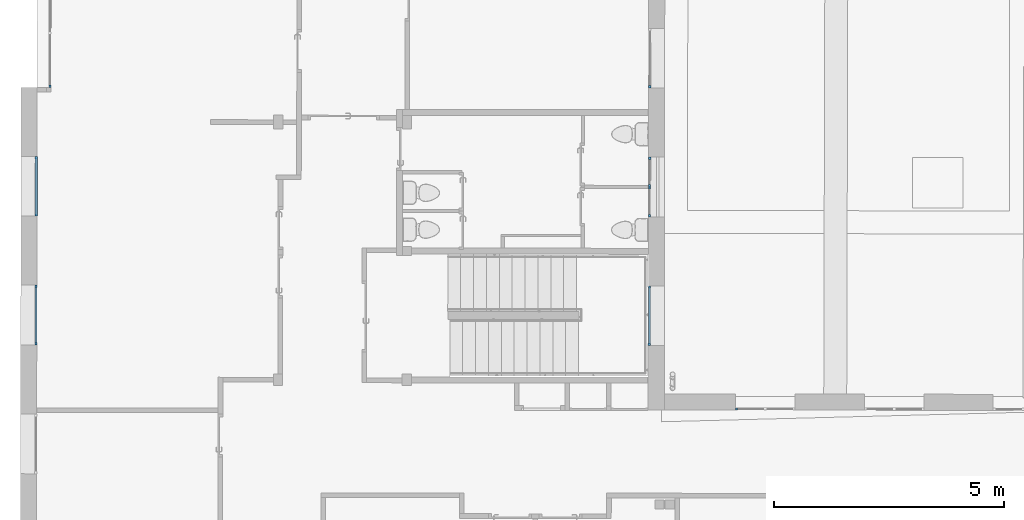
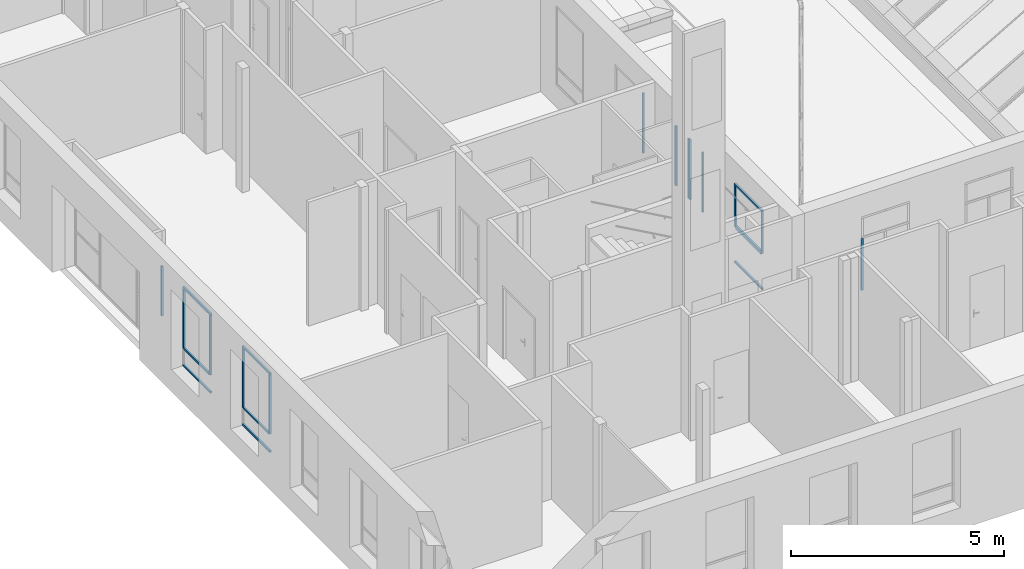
# One storey, part 4 of 101: 22 members, 8 elements without a shape of their own.
"""IFC2X3 building model written with IfcOpenShell, lengths in metres."""

from ifc_helpers import new_model, entity, si_unit, converted_unit, derived_unit, direction, frame, frame_2d, origin, origin_2d_with_axis, place, context, subcontext, project, spatial, rectangle, extrude, source, transform, mapped, material, type_object, type_shapes, element, aggregate, save


model = new_model("IFC2X3")

# Units and contexts
model_context = context("Model", 3, precision=1e-05, world=origin(), true_north=direction((6.123233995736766e-17, 1.0)))
body_context = subcontext(model_context, "Body", "Model", "MODEL_VIEW")
ifc_project = project(units=[si_unit("LENGTHUNIT", "METRE"), si_unit("AREAUNIT", "SQUARE_METRE"), converted_unit("PLANEANGLEUNIT", "DEGREE", entity("IfcPlaneAngleMeasure", 0.017453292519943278), si_unit("PLANEANGLEUNIT", "RADIAN"), dimensions=[0, 0, 0, 0, 0, 0, 0]), derived_unit("THERMALTRANSMITTANCEUNIT", [(si_unit("MASSUNIT", "GRAM", prefix="KILO"), 1), (si_unit("THERMODYNAMICTEMPERATUREUNIT", "KELVIN"), -1), (si_unit("TIMEUNIT", "SECOND"), -3)])], contexts=[model_context])

# Site, building, storey
site_placement = place(None, frame((1253.6752467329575, 2072.143113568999, 91.49999999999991), z_axis=(0.0, 0.0, 1.0), x_axis=(0.7237211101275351, 0.6900925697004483, 0.0)))
site = spatial("IfcSite", under=ifc_project, at=site_placement, Name="Surface", CompositionType="ELEMENT")
building_placement = place(site_placement, origin())
building = spatial("IfcBuilding", under=site, at=building_placement, CompositionType="ELEMENT")
storey_placement = place(building_placement, origin())
storey = spatial("IfcBuildingStorey", under=building, at=storey_placement, Name="0- Rdc", CompositionType="ELEMENT", Elevation=-5.764692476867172e-13)

# Curtain wall, member
curtain_wall_type_1 = type_object("IfcCurtainWallType", Name="Mur-rideau:Menuiserie Ext 1F+1OB VERTIC", PredefinedType="NOTDEFINED")
curtain_wall_1_placement = place(storey_placement, origin())
curtain_wall_1 = element("IfcCurtainWall", 1, at=curtain_wall_1_placement, inside=storey, type_object=curtain_wall_type_1, Name="Mur-rideau:Menuiserie Ext 1F+1OB VERTIC", ObjectType="Mur-rideau:Menuiserie Ext 1F+1OB VERTIC")
ifc_material = material(Name="OMD_Aluminium Men Ext")
member_type_1 = type_object("IfcMemberType", Name="Meneau rectangulaire:50x50", PredefinedType="MULLION", material=ifc_material)
shared_shape_1 = source(origin(), body_context, "Body", "SweptSolid", [
    extrude(rectangle(XDim=0.05, YDim=0.049999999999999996, at=origin_2d_with_axis()), frame((-0.025, 0.0, -1.2996959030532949), z_axis=(0.0, 0.0, 1.0), x_axis=(-1.0, 0.0, 0.0)), (0.0, 0.0, 1.0), 1.2996959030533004),
])
type_shapes(member_type_1, [shared_shape_1])
member_1_placement = place(curtain_wall_1_placement, frame((151.8210219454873, 12.235292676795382, 2.8999999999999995), z_axis=(0.691154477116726, 0.7227070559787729, 0.0), x_axis=(0.0, 0.0, 1.0)))
member_1 = element("IfcMember", 2, at=member_1_placement, type_object=member_type_1, material=ifc_material, Name="Meneau rectangulaire:50x50", ObjectType="Meneau rectangulaire:50x50", context=body_context, shape_type="MappedRepresentation", body=[
    mapped(shared_shape_1, transform((0.0, 0.0, 0.0), scale=1.0)),
])

curtain_wall_2_placement = place(storey_placement, origin())
curtain_wall_2 = element("IfcCurtainWall", 3, at=curtain_wall_2_placement, inside=storey, type_object=curtain_wall_type_1, Name="Mur-rideau:Menuiserie Ext 1F+1OB VERTIC", ObjectType="Mur-rideau:Menuiserie Ext 1F+1OB VERTIC")
member_2_placement = place(curtain_wall_2_placement, frame((153.75577662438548, 14.25932931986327, 2.8999999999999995), z_axis=(0.6911544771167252, 0.7227070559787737, 0.0), x_axis=(0.0, 0.0, 1.0)))
member_2 = element("IfcMember", 4, at=member_2_placement, type_object=member_type_1, material=ifc_material, Name="Meneau rectangulaire:50x50", ObjectType="Meneau rectangulaire:50x50", context=body_context, shape_type="MappedRepresentation", body=[
    mapped(shared_shape_1, transform((0.0, 0.0, 0.0), scale=1.0)),
])

# Member
member_type_2 = type_object("IfcMemberType", Name="Meneau rectangulaire:50x50", PredefinedType="MULLION", material=ifc_material)
shared_shape_2 = source(origin(), body_context, "Body", "SweptSolid", [
    extrude(rectangle(XDim=0.05, YDim=0.05, at=origin_2d_with_axis()), frame((-0.025, 0.0, -1.2996959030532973), z_axis=(0.0, 0.0, 1.0), x_axis=(-1.0, 0.0, 0.0)), (0.0, 0.0, 1.0), 1.2996959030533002),
])
type_shapes(member_type_2, [shared_shape_2])
member_3_placement = place(curtain_wall_1_placement, frame((150.92273130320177, 11.295993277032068, 0.62), z_axis=(-0.691154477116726, -0.7227070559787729, 0.0), x_axis=(0.0, 0.0, -1.0)))
member_3 = element("IfcMember", 5, at=member_3_placement, type_object=member_type_2, material=ifc_material, Name="Meneau rectangulaire:50x50", ObjectType="Meneau rectangulaire:50x50", context=body_context, shape_type="MappedRepresentation", body=[
    mapped(shared_shape_2, transform((0.0, 0.0, 0.0), scale=1.0)),
])

member_4_placement = place(curtain_wall_2_placement, frame((152.85748598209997, 13.320029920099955, 0.62), z_axis=(-0.6911544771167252, -0.7227070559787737, 0.0), x_axis=(0.0, 0.0, -1.0)))
member_4 = element("IfcMember", 6, at=member_4_placement, type_object=member_type_2, material=ifc_material, Name="Meneau rectangulaire:50x50", ObjectType="Meneau rectangulaire:50x50", context=body_context, shape_type="MappedRepresentation", body=[
    mapped(shared_shape_2, transform((0.0, 0.0, 0.0), scale=1.0)),
])

member_type_3 = type_object("IfcMemberType", Name="Meneau rectangulaire:50x50", PredefinedType="MULLION", material=ifc_material)
shared_shape_3 = source(origin(), body_context, "Body", "SweptSolid", [
    extrude(rectangle(XDim=0.05, YDim=0.049999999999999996, at=origin_2d_with_axis()), frame((-0.025, 0.0, -1.7099999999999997), z_axis=(0.0, 0.0, 1.0), x_axis=(-1.0, 0.0, 0.0)), (0.0, 0.0, 1.0), 1.7099999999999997),
])
type_shapes(member_type_3, [shared_shape_3])
member_5_placement = place(curtain_wall_1_placement, frame((150.92273130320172, 11.295993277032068, 2.8499999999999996), z_axis=(0.0, 0.0, 1.0), x_axis=(-0.6911544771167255, -0.7227070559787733, 0.0)))
member_5 = element("IfcMember", 7, at=member_5_placement, type_object=member_type_3, material=ifc_material, Name="Meneau rectangulaire:50x50", ObjectType="Meneau rectangulaire:50x50", context=body_context, shape_type="MappedRepresentation", body=[
    mapped(shared_shape_3, transform((0.0, 0.0, 0.0), scale=1.0)),
])

member_6_placement = place(curtain_wall_2_placement, frame((152.85748598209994, 13.320029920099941, 2.8499999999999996), z_axis=(0.0, 0.0, 1.0), x_axis=(-0.6911544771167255, -0.7227070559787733, 0.0)))
member_6 = element("IfcMember", 8, at=member_6_placement, type_object=member_type_3, material=ifc_material, Name="Meneau rectangulaire:50x50", ObjectType="Meneau rectangulaire:50x50", context=body_context, shape_type="MappedRepresentation", body=[
    mapped(shared_shape_3, transform((0.0, 0.0, 0.0), scale=1.0)),
])

member_type_4 = type_object("IfcMemberType", Name="Meneau rectangulaire:50x50", PredefinedType="MULLION", material=ifc_material)
shared_shape_4 = source(origin(), body_context, "Body", "SweptSolid", [
    extrude(rectangle(XDim=0.05, YDim=0.049999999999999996, at=origin_2d_with_axis()), frame((-0.025, 0.0, -1.7099999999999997), z_axis=(0.0, 0.0, 1.0), x_axis=(-1.0, 0.0, 0.0)), (0.0, 0.0, 1.0), 1.7099999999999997),
])
type_shapes(member_type_4, [shared_shape_4])
member_7_placement = place(curtain_wall_1_placement, frame((151.8210219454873, 12.235292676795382, 1.14), z_axis=(0.0, 0.0, -1.0), x_axis=(0.6911544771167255, 0.7227070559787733, 0.0)))
member_7 = element("IfcMember", 9, at=member_7_placement, type_object=member_type_4, material=ifc_material, Name="Meneau rectangulaire:50x50", ObjectType="Meneau rectangulaire:50x50", context=body_context, shape_type="MappedRepresentation", body=[
    mapped(shared_shape_4, transform((0.0, 0.0, 0.0), scale=1.0)),
])

member_8_placement = place(curtain_wall_2_placement, frame((153.75577662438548, 14.25932931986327, 1.14), z_axis=(0.0, 0.0, -1.0), x_axis=(0.6911544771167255, 0.7227070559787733, 0.0)))
member_8 = element("IfcMember", 10, at=member_8_placement, type_object=member_type_4, material=ifc_material, Name="Meneau rectangulaire:50x50", ObjectType="Meneau rectangulaire:50x50", context=body_context, shape_type="MappedRepresentation", body=[
    mapped(shared_shape_4, transform((0.0, 0.0, 0.0), scale=1.0)),
])

member_type_5 = type_object("IfcMemberType", Name="Meneau rectangulaire:50x50", PredefinedType="MULLION", material=ifc_material)
shared_shape_5 = source(origin(), body_context, "Body", "SweptSolid", [
    extrude(rectangle(XDim=0.05, YDim=0.05, at=frame_2d((0.0, -1.734723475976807e-18), x_axis=(1.0, 0.0))), frame((0.0, 0.0, -1.1996959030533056), z_axis=(0.0, 0.0, 1.0), x_axis=(-1.0, 0.0, 0.0)), (0.0, 0.0, 1.0), 1.1996959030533),
])
type_shapes(member_type_5, [shared_shape_5])
member_9_placement = place(curtain_wall_1_placement, frame((151.7864642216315, 12.199157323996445, 1.14), z_axis=(0.691154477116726, 0.7227070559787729, 0.0), x_axis=(0.0, 0.0, 1.0)))
member_9 = element("IfcMember", 11, at=member_9_placement, type_object=member_type_5, material=ifc_material, Name="Meneau rectangulaire:50x50", ObjectType="Meneau rectangulaire:50x50", context=body_context, shape_type="MappedRepresentation", body=[
    mapped(shared_shape_5, transform((0.0, 0.0, 0.0), scale=1.0)),
])

aggregate(curtain_wall_1, [member_1, member_3, member_5, member_7, member_9])

member_10_placement = place(curtain_wall_2_placement, frame((153.7212189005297, 14.223193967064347, 1.14), z_axis=(0.6911544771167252, 0.7227070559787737, 0.0), x_axis=(0.0, 0.0, 1.0)))
member_10 = element("IfcMember", 12, at=member_10_placement, type_object=member_type_5, material=ifc_material, Name="Meneau rectangulaire:50x50", ObjectType="Meneau rectangulaire:50x50", context=body_context, shape_type="MappedRepresentation", body=[
    mapped(shared_shape_5, transform((0.0, 0.0, 0.0), scale=1.0)),
])

aggregate(curtain_wall_2, [member_2, member_4, member_6, member_8, member_10])

# Curtain wall, members
curtain_wall_3_placement = place(storey_placement, origin())
curtain_wall_3 = element("IfcCurtainWall", 13, at=curtain_wall_3_placement, inside=storey, type_object=curtain_wall_type_1, Name="Mur-rideau:Menuiserie Ext 1F+1OB VERTIC", ObjectType="Mur-rideau:Menuiserie Ext 1F+1OB VERTIC")
member_type_6 = type_object("IfcMemberType", Name="Meneau rectangulaire:50x50", PredefinedType="MULLION", material=ifc_material)
shared_shape_6 = source(origin(), body_context, "Body", "SweptSolid", [
    extrude(rectangle(XDim=0.05, YDim=0.05, at=origin_2d_with_axis()), frame((-0.025, 0.0, -1.2996959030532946), z_axis=(0.0, 0.0, 1.0), x_axis=(-1.0, 0.0, 0.0)), (0.0, 0.0, 1.0), 1.299695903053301),
])
type_shapes(member_type_6, [shared_shape_6])
member_11_placement = place(curtain_wall_3_placement, frame((161.46536443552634, 3.0218530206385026, 2.8999999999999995), z_axis=(0.690983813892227, 0.7228702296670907, 0.0), x_axis=(0.0, 0.0, 1.0)))
member_11 = element("IfcMember", 14, at=member_11_placement, type_object=member_type_6, material=ifc_material, Name="Meneau rectangulaire:50x50", ObjectType="Meneau rectangulaire:50x50", context=body_context, shape_type="MappedRepresentation", body=[
    mapped(shared_shape_6, transform((0.0, 0.0, 0.0), scale=1.0)),
])
member_type_7 = type_object("IfcMemberType", Name="Meneau rectangulaire:50x50", PredefinedType="MULLION", material=ifc_material)
shared_shape_7 = source(origin(), body_context, "Body", "SweptSolid", [
    extrude(rectangle(XDim=0.05, YDim=0.05, at=origin_2d_with_axis()), frame((-0.025, 0.0, -1.299695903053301), z_axis=(0.0, 0.0, 1.0), x_axis=(-1.0, 0.0, 0.0)), (0.0, 0.0, 1.0), 1.299695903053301),
])
type_shapes(member_type_7, [shared_shape_7])
member_12_placement = place(curtain_wall_3_placement, frame((160.56729560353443, 2.0823415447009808, 0.62), z_axis=(-0.690983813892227, -0.7228702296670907, 0.0), x_axis=(0.0, 0.0, -1.0)))
member_12 = element("IfcMember", 15, at=member_12_placement, type_object=member_type_7, material=ifc_material, Name="Meneau rectangulaire:50x50", ObjectType="Meneau rectangulaire:50x50", context=body_context, shape_type="MappedRepresentation", body=[
    mapped(shared_shape_7, transform((0.0, 0.0, 0.0), scale=1.0)),
])

# Curtain wall, member
curtain_wall_4_placement = place(storey_placement, origin())
curtain_wall_4 = element("IfcCurtainWall", 16, at=curtain_wall_4_placement, inside=storey, type_object=curtain_wall_type_1, Name="Mur-rideau:Menuiserie Ext 1F+1OB VERTIC", ObjectType="Mur-rideau:Menuiserie Ext 1F+1OB VERTIC")
member_type_8 = type_object("IfcMemberType", Name="Meneau rectangulaire:50x50", PredefinedType="MULLION", material=ifc_material)
shared_shape_8 = source(origin(), body_context, "Body", "SweptSolid", [
    extrude(rectangle(XDim=0.05, YDim=0.05000000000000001, at=origin_2d_with_axis()), frame((-0.025, 0.0, -1.7099999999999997), z_axis=(0.0, 0.0, 1.0), x_axis=(-1.0, 0.0, 0.0)), (0.0, 0.0, 1.0), 1.7099999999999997),
])
type_shapes(member_type_8, [shared_shape_8])
member_13_placement = place(curtain_wall_4_placement, frame((164.43680496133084, 6.130414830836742, 2.8499999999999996), z_axis=(0.0, 0.0, 1.0), x_axis=(-0.6909838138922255, -0.722870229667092, 0.0)))
member_13 = element("IfcMember", 17, at=member_13_placement, type_object=member_type_8, material=ifc_material, Name="Meneau rectangulaire:50x50", ObjectType="Meneau rectangulaire:50x50", context=body_context, shape_type="MappedRepresentation", body=[
    mapped(shared_shape_8, transform((0.0, 0.0, 0.0), scale=1.0)),
])
aggregate(curtain_wall_4, [member_13])

# Curtain wall, members
curtain_wall_5_placement = place(storey_placement, origin())
curtain_wall_5 = element("IfcCurtainWall", 18, at=curtain_wall_5_placement, inside=storey, type_object=curtain_wall_type_1, Name="Mur-rideau:Menuiserie Ext 1F+1OB VERTIC", ObjectType="Mur-rideau:Menuiserie Ext 1F+1OB VERTIC")
member_14_placement = place(curtain_wall_5_placement, frame((162.50205028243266, 4.106378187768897, 2.8499999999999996), z_axis=(0.0, 0.0, 1.0), x_axis=(-0.6909838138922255, -0.722870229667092, 0.0)))
member_14 = element("IfcMember", 19, at=member_14_placement, type_object=member_type_8, material=ifc_material, Name="Meneau rectangulaire:50x50", ObjectType="Meneau rectangulaire:50x50", context=body_context, shape_type="MappedRepresentation", body=[
    mapped(shared_shape_8, transform((0.0, 0.0, 0.0), scale=1.0)),
])
member_type_9 = type_object("IfcMemberType", Name="Meneau rectangulaire:50x50", PredefinedType="MULLION", material=ifc_material)
shared_shape_9 = source(origin(), body_context, "Body", "SweptSolid", [
    extrude(rectangle(XDim=0.05, YDim=0.049999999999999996, at=origin_2d_with_axis()), frame((-0.025, 0.0, -1.7099999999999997), z_axis=(0.0, 0.0, 1.0), x_axis=(-1.0, 0.0, 0.0)), (0.0, 0.0, 1.0), 1.7099999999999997),
])
type_shapes(member_type_9, [shared_shape_9])
member_15_placement = place(curtain_wall_5_placement, frame((162.95097963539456, 4.576024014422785, 1.14), z_axis=(0.0, 0.0, -1.0), x_axis=(0.6909838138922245, 0.722870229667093, 0.0)))
member_15 = element("IfcMember", 20, at=member_15_placement, type_object=member_type_9, material=ifc_material, Name="Meneau rectangulaire:50x50", ObjectType="Meneau rectangulaire:50x50", context=body_context, shape_type="MappedRepresentation", body=[
    mapped(shared_shape_9, transform((0.0, 0.0, 0.0), scale=1.0)),
])
aggregate(curtain_wall_5, [member_14, member_15])

# Member
member_type_10 = type_object("IfcMemberType", Name="Meneau rectangulaire:50x50", PredefinedType="MULLION", material=ifc_material)
shared_shape_10 = source(origin(), body_context, "Body", "SweptSolid", [
    extrude(rectangle(XDim=0.05, YDim=0.05, at=origin_2d_with_axis()), frame((-0.025, 0.0, -1.1900000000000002), z_axis=(0.0, 0.0, 1.0), x_axis=(-1.0, 0.0, 0.0)), (0.0, 0.0, 1.0), 1.1900000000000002),
])
type_shapes(member_type_10, [shared_shape_10])
member_16_placement = place(curtain_wall_3_placement, frame((160.56729560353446, 2.0823415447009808, 2.8499999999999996), z_axis=(0.0, 0.0, 1.0), x_axis=(-0.6909838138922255, -0.722870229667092, 0.0)))
member_16 = element("IfcMember", 21, at=member_16_placement, type_object=member_type_10, material=ifc_material, Name="Meneau rectangulaire:50x50", ObjectType="Meneau rectangulaire:50x50", context=body_context, shape_type="MappedRepresentation", body=[
    mapped(shared_shape_10, transform((0.0, 0.0, 0.0), scale=1.0)),
])

member_type_11 = type_object("IfcMemberType", Name="Meneau rectangulaire:50x50", PredefinedType="MULLION", material=ifc_material)
shared_shape_11 = source(origin(), body_context, "Body", "SweptSolid", [
    extrude(rectangle(XDim=0.05, YDim=0.05, at=origin_2d_with_axis()), frame((-0.025, 0.0, -1.1900000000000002), z_axis=(0.0, 0.0, 1.0), x_axis=(-1.0, 0.0, 0.0)), (0.0, 0.0, 1.0), 1.1900000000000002),
])
type_shapes(member_type_11, [shared_shape_11])
member_17_placement = place(curtain_wall_3_placement, frame((161.46536443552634, 3.0218530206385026, 1.6599999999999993), z_axis=(0.0, 0.0, -1.0), x_axis=(0.6909838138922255, 0.722870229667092, 0.0)))
member_17 = element("IfcMember", 22, at=member_17_placement, type_object=member_type_11, material=ifc_material, Name="Meneau rectangulaire:50x50", ObjectType="Meneau rectangulaire:50x50", context=body_context, shape_type="MappedRepresentation", body=[
    mapped(shared_shape_11, transform((0.0, 0.0, 0.0), scale=1.0)),
])

member_type_12 = type_object("IfcMemberType", Name="Meneau rectangulaire:50 x100", PredefinedType="MULLION", material=ifc_material)
shared_shape_12 = source(origin(), body_context, "Body", "SweptSolid", [
    extrude(rectangle(XDim=0.1, YDim=0.05000000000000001, at=origin_2d_with_axis()), frame((0.0, 0.0, -1.1996959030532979), z_axis=(0.0, 0.0, 1.0), x_axis=(-1.0, 0.0, 0.0)), (0.0, 0.0, 1.0), 1.1996959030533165),
])
type_shapes(member_type_12, [shared_shape_12])
member_18_placement = place(curtain_wall_3_placement, frame((161.4308152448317, 2.985709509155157, 1.6599999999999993), z_axis=(0.690983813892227, 0.7228702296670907, 0.0), x_axis=(0.0, 0.0, 1.0)))
member_18 = element("IfcMember", 23, at=member_18_placement, type_object=member_type_12, material=ifc_material, Name="Meneau rectangulaire:50 x100", ObjectType="Meneau rectangulaire:50 x100", context=body_context, shape_type="MappedRepresentation", body=[
    mapped(shared_shape_12, transform((0.0, 0.0, 0.0), scale=1.0)),
])

aggregate(curtain_wall_3, [member_11, member_12, member_16, member_17, member_18])

# Curtain wall, member
curtain_wall_type_2 = type_object("IfcCurtainWallType", Name="Mur-rideau:Menuiserie Ext 2OF+1F VERTIC", PredefinedType="NOTDEFINED")
curtain_wall_6_placement = place(storey_placement, origin())
curtain_wall_6 = element("IfcCurtainWall", 24, at=curtain_wall_6_placement, inside=storey, type_object=curtain_wall_type_2, Name="Mur-rideau:Menuiserie Ext 2OF+1F VERTIC", ObjectType="Mur-rideau:Menuiserie Ext 2OF+1F VERTIC")
member_type_13 = type_object("IfcMemberType", Name="Meneau rectangulaire:50x50", PredefinedType="MULLION", material=ifc_material)
shared_shape_13 = source(origin(), body_context, "Body", "SweptSolid", [
    extrude(rectangle(XDim=0.05, YDim=0.049999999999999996, at=origin_2d_with_axis()), frame((-0.025, 0.0, -1.4833333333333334), z_axis=(0.0, 0.0, 1.0), x_axis=(-1.0, 0.0, 0.0)), (0.0, 0.0, 1.0), 1.4833333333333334),
])
type_shapes(member_type_13, [shared_shape_13])
member_19_placement = place(curtain_wall_6_placement, frame((160.97005655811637, -0.20521344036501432, 0.7916666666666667), z_axis=(0.0, 0.0, -1.0), x_axis=(-0.7228702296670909, 0.6909838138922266, 0.0)))
member_19 = element("IfcMember", 25, at=member_19_placement, type_object=member_type_13, material=ifc_material, Name="Meneau rectangulaire:50x50", ObjectType="Meneau rectangulaire:50x50", context=body_context, shape_type="MappedRepresentation", body=[
    mapped(shared_shape_13, transform((0.0, 0.0, 0.0), scale=1.0)),
])
aggregate(curtain_wall_6, [member_19])

curtain_wall_7_placement = place(storey_placement, origin())
curtain_wall_7 = element("IfcCurtainWall", 26, at=curtain_wall_7_placement, inside=storey, type_object=curtain_wall_type_1, Name="Mur-rideau:Menuiserie Ext 1F+1OB VERTIC", ObjectType="Mur-rideau:Menuiserie Ext 1F+1OB VERTIC")
member_type_14 = type_object("IfcMemberType", Name="Meneau rectangulaire:50x50", PredefinedType="MULLION", material=ifc_material)
shared_shape_14 = source(origin(), body_context, "Body", "SweptSolid", [
    extrude(rectangle(XDim=0.05, YDim=0.05000000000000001, at=origin_2d_with_axis()), frame((-0.025, 0.0, -1.4249999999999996), z_axis=(0.0, 0.0, 1.0), x_axis=(-1.0, 0.0, 0.0)), (0.0, 0.0, 1.0), 1.4249999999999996),
])
type_shapes(member_type_14, [shared_shape_14])
member_20_placement = place(curtain_wall_7_placement, frame((155.01036704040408, 15.140623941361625, 1.025), z_axis=(0.0, 0.0, -1.0), x_axis=(-0.6909838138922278, -0.7228702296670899, 0.0)))
member_20 = element("IfcMember", 27, at=member_20_placement, type_object=member_type_14, material=ifc_material, Name="Meneau rectangulaire:50x50", ObjectType="Meneau rectangulaire:50x50", context=body_context, shape_type="MappedRepresentation", body=[
    mapped(shared_shape_14, transform((0.0, 0.0, 0.0), scale=1.0)),
])
aggregate(curtain_wall_7, [member_20])

# Curtain wall, members
curtain_wall_8_placement = place(storey_placement, origin())
curtain_wall_8 = element("IfcCurtainWall", 28, at=curtain_wall_8_placement, inside=storey, type_object=curtain_wall_type_1, Name="Mur-rideau:Menuiserie Ext 1F+1OB VERTIC", ObjectType="Mur-rideau:Menuiserie Ext 1F+1OB VERTIC")
member_type_15 = type_object("IfcMemberType", Name="Meneau rectangulaire:50x50", PredefinedType="MULLION", material=ifc_material)
shared_shape_15 = source(origin(), body_context, "Body", "SweptSolid", [
    extrude(rectangle(XDim=0.05, YDim=0.05, at=origin_2d_with_axis()), frame((-0.025, 0.0, -1.7099999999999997), z_axis=(0.0, 0.0, 1.0), x_axis=(-1.0, 0.0, 0.0)), (0.0, 0.0, 1.0), 1.7099999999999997),
])
type_shapes(member_type_15, [shared_shape_15])
member_21_placement = place(curtain_wall_8_placement, frame((163.40011911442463, 5.045889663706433, 2.8499999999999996), z_axis=(0.0, 0.0, 1.0), x_axis=(0.6909838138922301, 0.7228702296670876, 0.0)))
member_21 = element("IfcMember", 29, at=member_21_placement, type_object=member_type_15, material=ifc_material, Name="Meneau rectangulaire:50x50", ObjectType="Meneau rectangulaire:50x50", context=body_context, shape_type="MappedRepresentation", body=[
    mapped(shared_shape_15, transform((0.0, 0.0, 0.0), scale=1.0)),
])
member_type_16 = type_object("IfcMemberType", Name="Meneau rectangulaire:50x50", PredefinedType="MULLION", material=ifc_material)
shared_shape_16 = source(origin(), body_context, "Body", "SweptSolid", [
    extrude(rectangle(XDim=0.05, YDim=0.049999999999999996, at=origin_2d_with_axis()), frame((-0.025, 0.0, -1.7099999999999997), z_axis=(0.0, 0.0, 1.0), x_axis=(-1.0, 0.0, 0.0)), (0.0, 0.0, 1.0), 1.7099999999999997),
])
type_shapes(member_type_16, [shared_shape_16])
member_22_placement = place(curtain_wall_8_placement, frame((162.95097963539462, 4.576024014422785, 1.14), z_axis=(0.0, 0.0, -1.0), x_axis=(-0.6909838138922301, -0.7228702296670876, 0.0)))
member_22 = element("IfcMember", 30, at=member_22_placement, type_object=member_type_16, material=ifc_material, Name="Meneau rectangulaire:50x50", ObjectType="Meneau rectangulaire:50x50", context=body_context, shape_type="MappedRepresentation", body=[
    mapped(shared_shape_16, transform((0.0, 0.0, 0.0), scale=1.0)),
])
aggregate(curtain_wall_8, [member_21, member_22])

save(model, "model.ifc")
